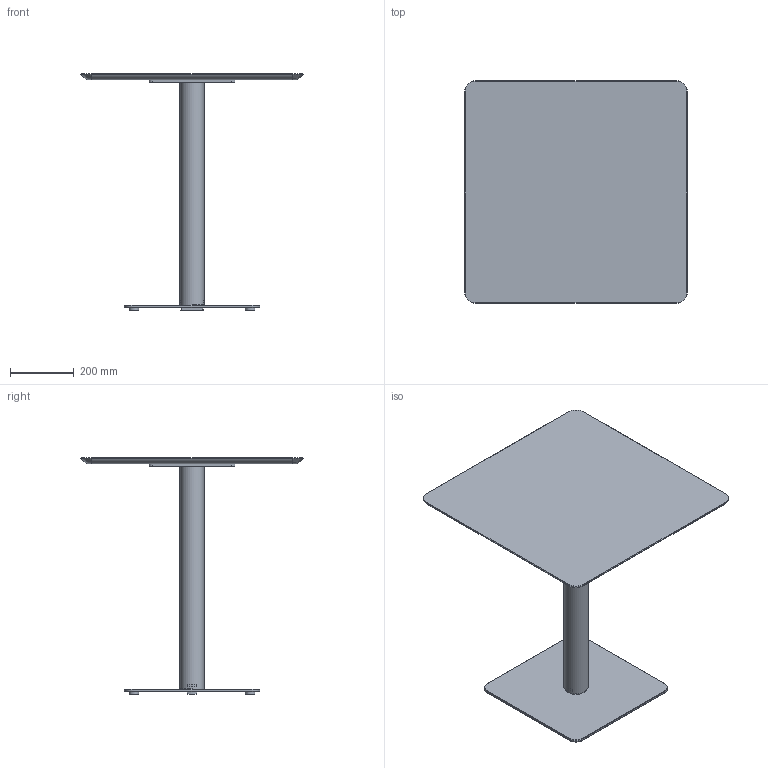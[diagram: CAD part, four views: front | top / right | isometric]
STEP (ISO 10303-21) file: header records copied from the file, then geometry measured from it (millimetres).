
FILE_DESCRIPTION( ('This file contains a STEP AP42 implementation' ,'as created by ZW3D STEP Interface translator.') ,'2;1' );
FILE_NAME( 'Henri - B_Carré - F3 - M3 - 700 x 700 x 750.stp' ,'24 912.17 952', (''), ('ZWCAD Software Co.'), 'Version 1.0', 'ZW3D to STEP translator', '' );
FILE_SCHEMA(('AUTOMOTIVE_DESIGN { 1 0 10303 214 1 1 1 1 }'));
Length unit declared in the file: millimetre
Products named in the file (14): 0; PIED BISTROT PARAMETRIQUE_; COLONNE ACIER Ø76 V.02_; TUB-D076-02_; PLA-R76B-01_; CROIX ACIER 370 V.02_; CRX-X370-02_; SOCLE ACIER L 425x425 V.02_; SCL-R425-02_; PLA-R30A-01_; PLA-R30A-01; WUERTH 0276063020 Euro-screw 6.3x2 Verzinkt_; PLATEAU BISTROT PARAMETRIQUE_; insert_m6_13_
Assembly tree (22 placements, depth 3):
  0
  PIED BISTROT PARAMETRIQUE_
    COLONNE ACIER Ø76 V.02_
      TUB-D076-02_
      PLA-R76B-01_  x2
    CROIX ACIER 370 V.02_
      CRX-X370-02_
    SOCLE ACIER L 425x425 V.02_
      SCL-R425-02_
      PLA-R30A-01_
      PLA-R30A-01  x3
    WUERTH 0276063020 Euro-screw 6.3x2 Verzinkt_
    PLATEAU BISTROT PARAMETRIQUE_
      insert_m6_13_  x8
Bounding box: 700 x 700 x 744 mm (x, y, z)
Volume: 11736922.6 mm3; surface area: 1892541.8 mm2
Topology: 19 solids, 19 shells, 537 faces, 1310 edges, 822 vertices
Faces by surface type: plane 258, bspline 125, cylinder 102, cone 51, torus 1
Full cylindrical faces by diameter (mm): 4.88 x1, 6 x8, 6.3 x1, 8 x45, 12 x2, 14 x2, 30 x4, 72 x1, 76 x1
Entity records: 12334 total; most frequent: CARTESIAN_POINT 3428, ORIENTED_EDGE 1624, DIRECTION 1519, EDGE_CURVE 812, VERTEX_POINT 518, AXIS2_PLACEMENT_3D 507, VECTOR 505, LINE 505
